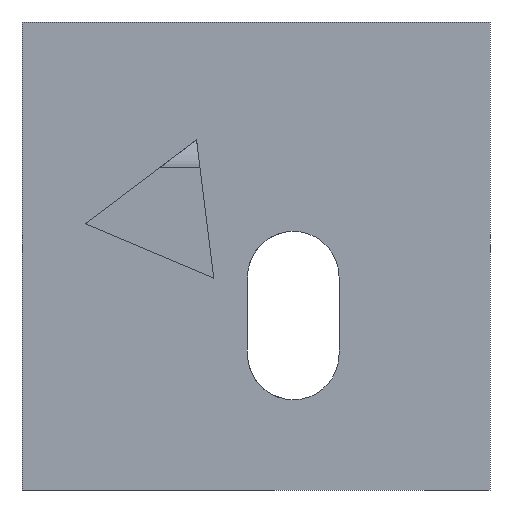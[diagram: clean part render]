
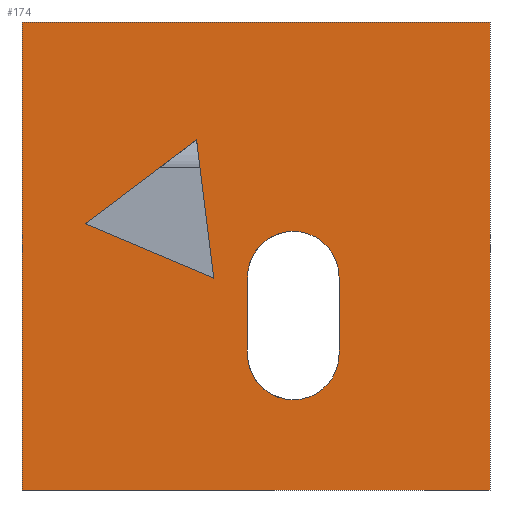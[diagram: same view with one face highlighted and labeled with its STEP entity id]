
A CAD part, left-side view. The second image highlights one B-rep face of the part: STEP entity #174.
In plain terms, the highlighted planar face has unit normal (-1, 0, 0).
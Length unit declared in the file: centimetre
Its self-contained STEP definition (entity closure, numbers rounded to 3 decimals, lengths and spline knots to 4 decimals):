
#1 = VERTEX_POINT ( 'NONE', #847 ) ;
#19 = LINE ( 'NONE', #503, #1269 ) ;
#49 = CARTESIAN_POINT ( 'NONE',  ( 0., 518.1826, 454.892 ) ) ;
#55 = ORIENTED_EDGE ( 'NONE', *, *, #152, .F. ) ;
#75 = AXIS2_PLACEMENT_3D ( 'NONE', #742, #794, #447 ) ;
#80 = EDGE_LOOP ( 'NONE', ( #1021, #1081, #112, #439 ) ) ;
#112 = ORIENTED_EDGE ( 'NONE', *, *, #418, .F. ) ;
#131 = DIRECTION ( 'NONE',  ( 0., 0., -1. ) ) ;
#145 = VERTEX_POINT ( 'NONE', #770 ) ;
#152 = EDGE_CURVE ( 'NONE', #966, #555, #1338, .T. ) ;
#174 = ADVANCED_FACE ( 'NONE', ( #674, #577, #462 ), #913, .F. ) ;
#177 = VERTEX_POINT ( 'NONE', #907 ) ;
#180 = DIRECTION ( 'NONE',  ( 0., 0., -1. ) ) ;
#212 = LINE ( 'NONE', #1038, #445 ) ;
#215 = VECTOR ( 'NONE', #1111, 100. ) ;
#240 = VERTEX_POINT ( 'NONE', #362 ) ;
#260 = EDGE_CURVE ( 'NONE', #1212, #1340, #1166, .T. ) ;
#328 = CARTESIAN_POINT ( 'NONE',  ( 0., 420.377, 454.892 ) ) ;
#362 = CARTESIAN_POINT ( 'NONE',  ( 0., 1000., 0. ) ) ;
#372 = CARTESIAN_POINT ( 'NONE',  ( 0., 322.5713, 454.892 ) ) ;
#376 = VECTOR ( 'NONE', #546, 100. ) ;
#386 = LINE ( 'NONE', #1186, #1297 ) ;
#406 = VERTEX_POINT ( 'NONE', #1415 ) ;
#418 = EDGE_CURVE ( 'NONE', #406, #1413, #386, .T. ) ;
#439 = ORIENTED_EDGE ( 'NONE', *, *, #1120, .T. ) ;
#445 = VECTOR ( 'NONE', #1465, 100. ) ;
#447 = DIRECTION ( 'NONE',  ( 0., 0., -1. ) ) ;
#462 = FACE_OUTER_BOUND ( 'NONE', #80, .T. ) ;
#499 = AXIS2_PLACEMENT_3D ( 'NONE', #1264, #807, #819 ) ;
#503 = CARTESIAN_POINT ( 'NONE',  ( 0., 0., 1000. ) ) ;
#522 = VECTOR ( 'NONE', #1210, 100. ) ;
#546 = DIRECTION ( 'NONE',  ( 0., 0.123, 0.992 ) ) ;
#554 = LINE ( 'NONE', #637, #522 ) ;
#555 = VERTEX_POINT ( 'NONE', #1275 ) ;
#577 = FACE_BOUND ( 'NONE', #1134, .T. ) ;
#579 = ORIENTED_EDGE ( 'NONE', *, *, #821, .F. ) ;
#586 = VECTOR ( 'NONE', #180, 100. ) ;
#594 = CARTESIAN_POINT ( 'NONE',  ( 0., 322.5713, 290.4956 ) ) ;
#637 = CARTESIAN_POINT ( 'NONE',  ( 0., 322.5713, 290.4956 ) ) ;
#643 = DIRECTION ( 'NONE',  ( 0., 0., 1. ) ) ;
#674 = FACE_BOUND ( 'NONE', #1157, .T. ) ;
#687 = CARTESIAN_POINT ( 'NONE',  ( 0., 518.1826, 454.892 ) ) ;
#695 = ORIENTED_EDGE ( 'NONE', *, *, #260, .F. ) ;
#700 = EDGE_CURVE ( 'NONE', #1368, #145, #909, .T. ) ;
#702 = DIRECTION ( 'NONE',  ( 0., -1., 0. ) ) ;
#711 = EDGE_CURVE ( 'NONE', #145, #177, #212, .T. ) ;
#737 = VERTEX_POINT ( 'NONE', #687 ) ;
#742 = CARTESIAN_POINT ( 'NONE',  ( 0., 1000., 1000. ) ) ;
#759 = CIRCLE ( 'NONE', #1357, 97.8056 ) ;
#770 = CARTESIAN_POINT ( 'NONE',  ( 0., 627.1316, 748.4937 ) ) ;
#793 = CARTESIAN_POINT ( 'NONE',  ( 0., 518.1826, 290.4956 ) ) ;
#794 = DIRECTION ( 'NONE',  ( 1., 0., 0. ) ) ;
#799 = ORIENTED_EDGE ( 'NONE', *, *, #1125, .F. ) ;
#807 = DIRECTION ( 'NONE',  ( -1., 0., 0. ) ) ;
#819 = DIRECTION ( 'NONE',  ( 0., 0., 1. ) ) ;
#821 = EDGE_CURVE ( 'NONE', #737, #1212, #1089, .T. ) ;
#824 = CARTESIAN_POINT ( 'NONE',  ( 0., 0., 1000. ) ) ;
#847 = CARTESIAN_POINT ( 'NONE',  ( 0., 0., 0. ) ) ;
#857 = EDGE_CURVE ( 'NONE', #1340, #966, #554, .T. ) ;
#873 = LINE ( 'NONE', #1203, #586 ) ;
#903 = DIRECTION ( 'NONE',  ( 0., 0., 1. ) ) ;
#907 = CARTESIAN_POINT ( 'NONE',  ( 0., 864.6695, 568.8911 ) ) ;
#909 = LINE ( 'NONE', #1361, #376 ) ;
#913 = PLANE ( 'NONE',  #75 ) ;
#966 = VERTEX_POINT ( 'NONE', #372 ) ;
#971 = CARTESIAN_POINT ( 'NONE',  ( 0., 420.377, 454.892 ) ) ;
#1011 = VECTOR ( 'NONE', #131, 100. ) ;
#1021 = ORIENTED_EDGE ( 'NONE', *, *, #1458, .T. ) ;
#1034 = EDGE_CURVE ( 'NONE', #555, #737, #759, .T. ) ;
#1038 = CARTESIAN_POINT ( 'NONE',  ( 0., 627.1316, 748.4937 ) ) ;
#1051 = AXIS2_PLACEMENT_3D ( 'NONE', #328, #1135, #903 ) ;
#1081 = ORIENTED_EDGE ( 'NONE', *, *, #1442, .F. ) ;
#1089 = LINE ( 'NONE', #49, #1011 ) ;
#1093 = DIRECTION ( 'NONE',  ( -1., 0., 0. ) ) ;
#1103 = LINE ( 'NONE', #1208, #215 ) ;
#1111 = DIRECTION ( 'NONE',  ( 0., -0.921, -0.389 ) ) ;
#1115 = ORIENTED_EDGE ( 'NONE', *, *, #857, .F. ) ;
#1120 = EDGE_CURVE ( 'NONE', #406, #240, #873, .T. ) ;
#1125 = EDGE_CURVE ( 'NONE', #177, #1368, #1103, .T. ) ;
#1134 = EDGE_LOOP ( 'NONE', ( #1115, #695, #579, #1310, #55 ) ) ;
#1135 = DIRECTION ( 'NONE',  ( -1., 0., 0. ) ) ;
#1157 = EDGE_LOOP ( 'NONE', ( #799, #1160, #1342 ) ) ;
#1160 = ORIENTED_EDGE ( 'NONE', *, *, #711, .F. ) ;
#1166 = CIRCLE ( 'NONE', #499, 97.8056 ) ;
#1176 = CARTESIAN_POINT ( 'NONE',  ( 0., 590.3602, 452.9785 ) ) ;
#1186 = CARTESIAN_POINT ( 'NONE',  ( 0., 1000., 1000. ) ) ;
#1190 = DIRECTION ( 'NONE',  ( 0., -1., 0. ) ) ;
#1203 = CARTESIAN_POINT ( 'NONE',  ( 0., 1000., 1000. ) ) ;
#1208 = CARTESIAN_POINT ( 'NONE',  ( 0., 864.6695, 568.8911 ) ) ;
#1210 = DIRECTION ( 'NONE',  ( 0., 0., 1. ) ) ;
#1212 = VERTEX_POINT ( 'NONE', #793 ) ;
#1260 = LINE ( 'NONE', #1271, #1446 ) ;
#1264 = CARTESIAN_POINT ( 'NONE',  ( 0., 420.377, 290.4956 ) ) ;
#1269 = VECTOR ( 'NONE', #1373, 100. ) ;
#1271 = CARTESIAN_POINT ( 'NONE',  ( 0., 1000., 0. ) ) ;
#1275 = CARTESIAN_POINT ( 'NONE',  ( 0., 420.377, 552.6976 ) ) ;
#1297 = VECTOR ( 'NONE', #1190, 100. ) ;
#1310 = ORIENTED_EDGE ( 'NONE', *, *, #1034, .F. ) ;
#1338 = CIRCLE ( 'NONE', #1051, 97.8056 ) ;
#1340 = VERTEX_POINT ( 'NONE', #594 ) ;
#1342 = ORIENTED_EDGE ( 'NONE', *, *, #700, .F. ) ;
#1357 = AXIS2_PLACEMENT_3D ( 'NONE', #971, #1093, #643 ) ;
#1361 = CARTESIAN_POINT ( 'NONE',  ( 0., 590.3602, 452.9785 ) ) ;
#1368 = VERTEX_POINT ( 'NONE', #1176 ) ;
#1373 = DIRECTION ( 'NONE',  ( 0., 0., -1. ) ) ;
#1413 = VERTEX_POINT ( 'NONE', #824 ) ;
#1415 = CARTESIAN_POINT ( 'NONE',  ( 0., 1000., 1000. ) ) ;
#1442 = EDGE_CURVE ( 'NONE', #1413, #1, #19, .T. ) ;
#1446 = VECTOR ( 'NONE', #702, 100. ) ;
#1458 = EDGE_CURVE ( 'NONE', #240, #1, #1260, .T. ) ;
#1465 = DIRECTION ( 'NONE',  ( 0., 0.798, -0.603 ) ) ;
